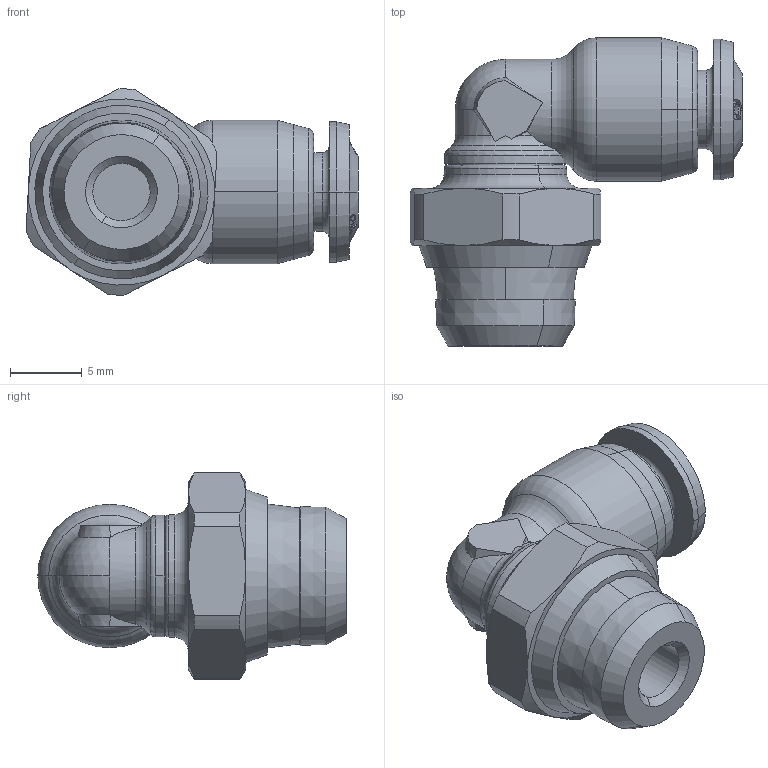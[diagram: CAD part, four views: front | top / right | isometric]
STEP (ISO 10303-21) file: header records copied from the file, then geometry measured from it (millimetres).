
FILE_DESCRIPTION (( 'STEP AP214' ), '1' );
FILE_NAME ('5511100001.step', '2012-10-02T17:35:06', ( '' ), ( '' ), 'SwSTEP 2.0', 'SolidWorks 2012', '' );
FILE_SCHEMA (( 'AUTOMOTIVE_DESIGN' ));
Length unit declared in the file: millimetre
Products named in the file (1): 5511100001
Bounding box: 23.16 x 21.5 x 14.4 mm (x, y, z)
Volume: 2245 mm3; surface area: 1500.8 mm2
Topology: 1 solids, 1 shells, 253 faces, 627 edges, 401 vertices
Faces by surface type: bspline 116, cone 59, plane 31, cylinder 27, torus 18, sphere 2
Entity records: 14650 total; most frequent: CARTESIAN_POINT 6878, ORIENTED_EDGE 1254, DIRECTION 637, EDGE_CURVE 627, VERTEX_POINT 401, B_SPLINE_CURVE_WITH_KNOTS 398, AXIS2_PLACEMENT_3D 282, EDGE_LOOP 278
